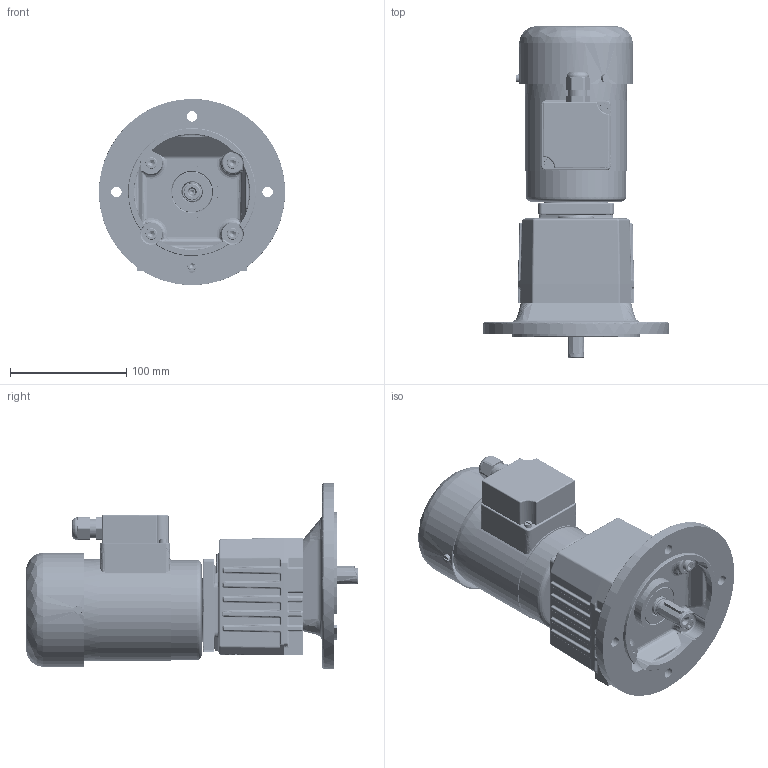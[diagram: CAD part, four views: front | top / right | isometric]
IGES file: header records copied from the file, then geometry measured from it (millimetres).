
Global section: file name: G239_G269-03-4_B5_KK_C; native system: unknown; preprocessor: unknown; author: unknown; organization: unknown; date: 20220204.140600; units: millimetre
Bounding box: 160 x 285.4 x 160 mm (x, y, z)
Volume: 1452714.1 mm3; surface area: 342007.2 mm2
Topology: 85 solids, 90 shells, 3056 faces, 7873 edges, 4972 vertices
Faces by surface type: bspline 3056
